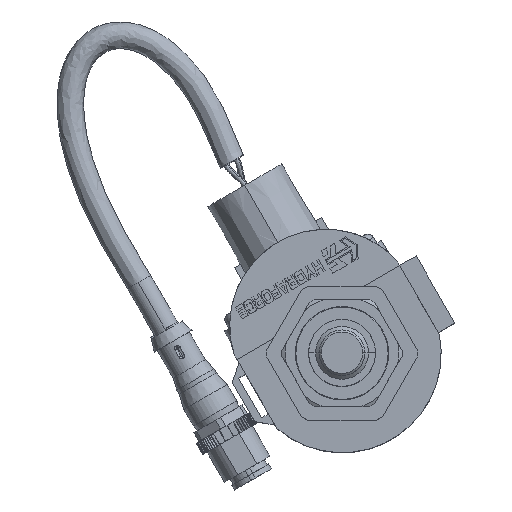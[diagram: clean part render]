
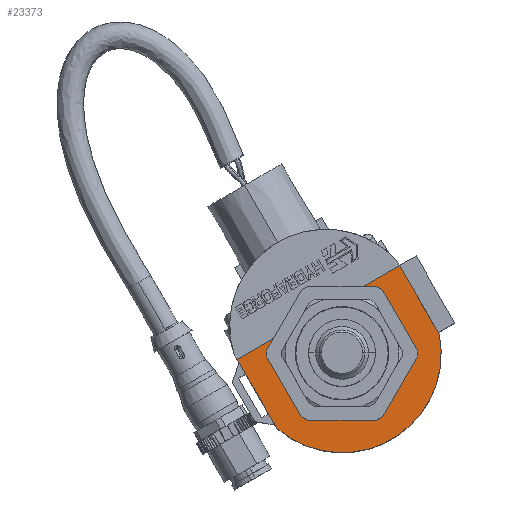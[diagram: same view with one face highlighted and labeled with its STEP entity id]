
A CAD part, top view. The second image highlights one B-rep face of the part: STEP entity #23373.
In plain terms, the highlighted planar face has unit normal (0, 0, 1).
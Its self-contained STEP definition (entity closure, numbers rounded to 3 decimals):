
#5590=DIRECTION('',(-1.,0.,0.));
#5591=VECTOR('',#5590,11.062);
#5592=CARTESIAN_POINT('',(-11.214,11.252,24.384));
#5593=LINE('',#5592,#5591);
#7885=CARTESIAN_POINT('',(0.,0.,24.384));
#7886=DIRECTION('',(0.,0.,1.));
#7887=DIRECTION('',(-0.803,0.596,0.));
#7888=AXIS2_PLACEMENT_3D('',#7885,#7886,#7887);
#7890=CARTESIAN_POINT('',(0.,0.,24.384));
#7891=DIRECTION('',(0.,0.,1.));
#7892=DIRECTION('',(-1.,0.,0.));
#7893=AXIS2_PLACEMENT_3D('',#7890,#7891,#7892);
#7895=CARTESIAN_POINT('',(0.,0.,24.384));
#7896=DIRECTION('',(0.,0.,1.));
#7897=DIRECTION('',(1.,0.,0.));
#7898=AXIS2_PLACEMENT_3D('',#7895,#7896,#7897);
#7900=DIRECTION('',(0.,1.,0.));
#7901=VECTOR('',#7900,2.921);
#7902=CARTESIAN_POINT('',(11.214,8.331,24.384));
#7903=LINE('',#7902,#7901);
#7904=DIRECTION('',(1.,0.,0.));
#7905=VECTOR('',#7904,11.062);
#7906=CARTESIAN_POINT('',(11.214,11.252,24.384));
#7907=LINE('',#7906,#7905);
#7908=DIRECTION('',(0.,-1.,0.));
#7909=VECTOR('',#7908,18.923);
#7910=CARTESIAN_POINT('',(22.276,11.252,24.384));
#7911=LINE('',#7910,#7909);
#7912=CARTESIAN_POINT('',(0.,0.,24.384));
#7913=DIRECTION('',(0.,0.,-1.));
#7914=DIRECTION('',(0.946,-0.326,0.));
#7915=AXIS2_PLACEMENT_3D('',#7912,#7913,#7914);
#7917=DIRECTION('',(0.,1.,0.));
#7918=VECTOR('',#7917,18.923);
#7919=CARTESIAN_POINT('',(-22.276,-7.671,24.384));
#7920=LINE('',#7919,#7918);
#7921=DIRECTION('',(0.,-1.,0.));
#7922=VECTOR('',#7921,2.921);
#7923=CARTESIAN_POINT('',(-11.214,11.252,24.384));
#7924=LINE('',#7923,#7922);
#19313=CARTESIAN_POINT('',(11.214,11.252,24.384));
#19314=CARTESIAN_POINT('',(-11.214,11.252,24.384));
#19315=VERTEX_POINT('',#19313);
#19316=VERTEX_POINT('',#19314);
#19317=CARTESIAN_POINT('',(-22.276,11.252,24.384));
#19318=VERTEX_POINT('',#19317);
#19326=CARTESIAN_POINT('',(22.276,11.252,24.384));
#19327=VERTEX_POINT('',#19326);
#19597=CARTESIAN_POINT('',(-11.214,8.331,24.384));
#19599=VERTEX_POINT('',#19597);
#19606=CARTESIAN_POINT('',(11.214,8.331,24.384));
#19607=VERTEX_POINT('',#19606);
#19795=CARTESIAN_POINT('',(-13.97,0.,24.384));
#19797=VERTEX_POINT('',#19795);
#19836=CARTESIAN_POINT('',(13.97,0.,24.384));
#19837=VERTEX_POINT('',#19836);
#19948=CARTESIAN_POINT('',(22.276,-7.671,24.384));
#19949=VERTEX_POINT('',#19948);
#19950=CARTESIAN_POINT('',(-22.276,-7.671,24.384));
#19951=VERTEX_POINT('',#19950);
#23352=CARTESIAN_POINT('',(0.,11.252,24.384));
#23353=DIRECTION('',(0.,0.,-1.));
#23354=DIRECTION('',(0.,1.,0.));
#23355=AXIS2_PLACEMENT_3D('',#23352,#23353,#23354);
#23356=PLANE('',#23355);
#23357=ORIENTED_EDGE('',*,*,#23237,.T.);
#23358=ORIENTED_EDGE('',*,*,#23060,.T.);
#23359=ORIENTED_EDGE('',*,*,#23181,.T.);
#23361=ORIENTED_EDGE('',*,*,#23360,.T.);
#23362=ORIENTED_EDGE('',*,*,#22150,.T.);
#23364=ORIENTED_EDGE('',*,*,#23363,.T.);
#23366=ORIENTED_EDGE('',*,*,#23365,.T.);
#23368=ORIENTED_EDGE('',*,*,#23367,.T.);
#23369=ORIENTED_EDGE('',*,*,#22138,.F.);
#23370=ORIENTED_EDGE('',*,*,#22512,.T.);
#23371=EDGE_LOOP('',(#23357,#23358,#23359,#23361,#23362,#23364,#23366,#23368,
#23369,#23370));
#23372=FACE_OUTER_BOUND('',#23371,.F.);
#23373=ADVANCED_FACE('',(#23372),#23356,.F.);
#7889=CIRCLE('',#7888,13.97);
#7894=CIRCLE('',#7893,13.97);
#7899=CIRCLE('',#7898,13.97);
#7916=CIRCLE('',#7915,23.56);
#22138=EDGE_CURVE('',#19316,#19318,#5593,.T.);
#22150=EDGE_CURVE('',#19315,#19327,#7907,.T.);
#22512=EDGE_CURVE('',#19316,#19599,#7924,.T.);
#23060=EDGE_CURVE('',#19797,#19837,#7894,.T.);
#23181=EDGE_CURVE('',#19837,#19607,#7899,.T.);
#23237=EDGE_CURVE('',#19599,#19797,#7889,.T.);
#23360=EDGE_CURVE('',#19607,#19315,#7903,.T.);
#23363=EDGE_CURVE('',#19327,#19949,#7911,.T.);
#23365=EDGE_CURVE('',#19949,#19951,#7916,.T.);
#23367=EDGE_CURVE('',#19951,#19318,#7920,.T.);
